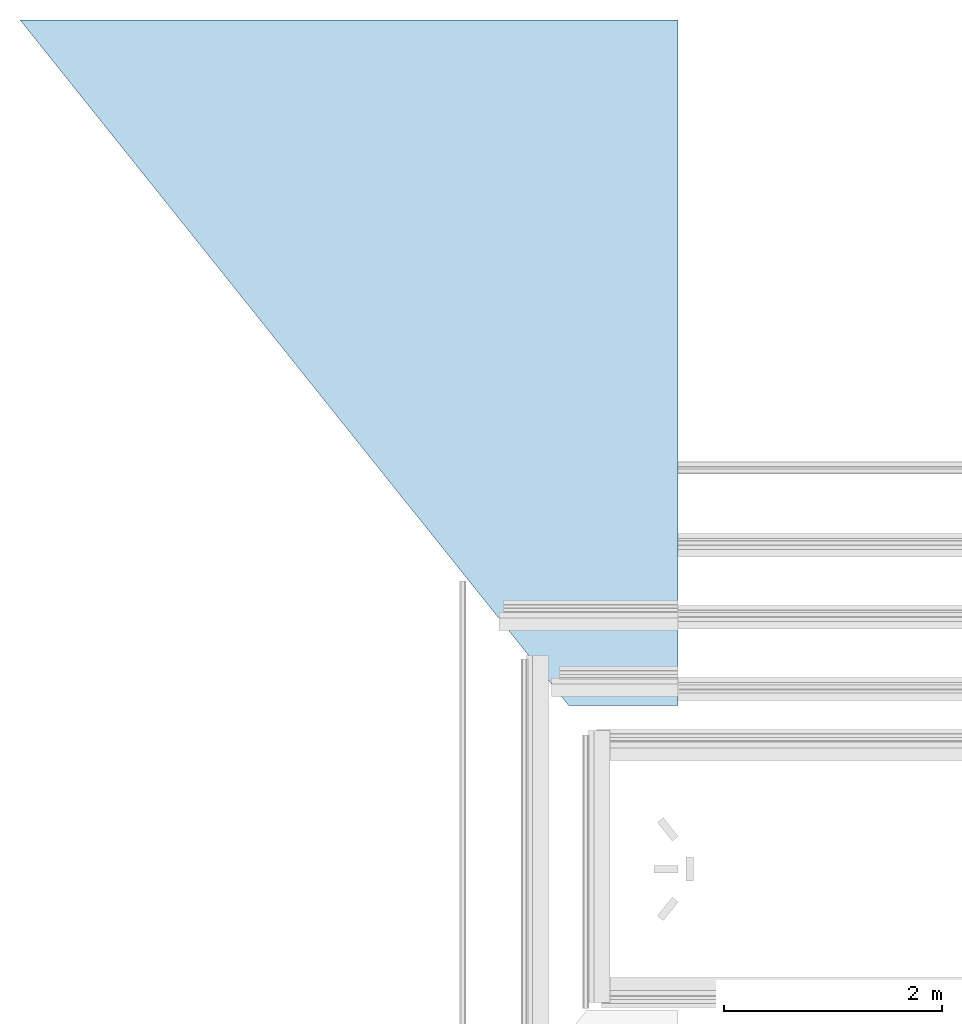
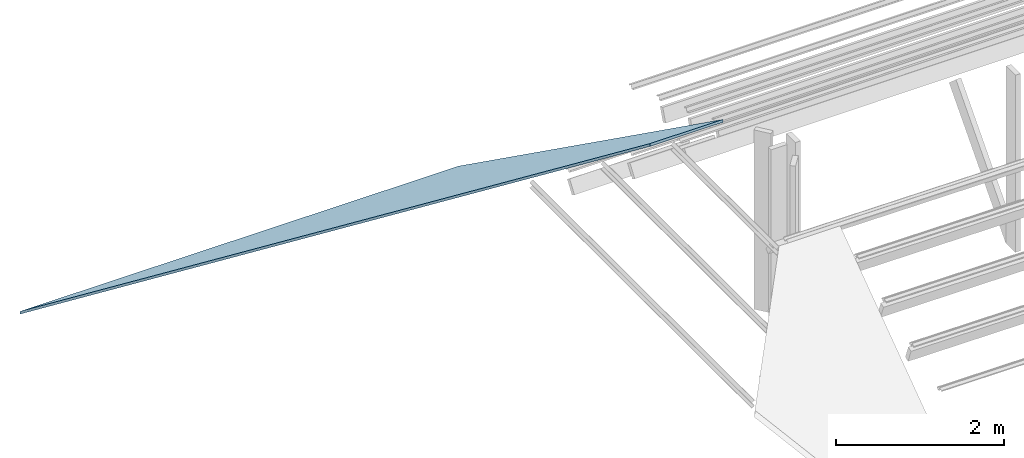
# One storey, part 5 of 6: 1 slab, 1 element without a shape of its own.
"""IFC2X3 building model written with IfcOpenShell, lengths in centimetres."""

from ifc_helpers import new_model, entity, si_unit, converted_unit, direction, frame, origin, place, context, subcontext, project, spatial, polyline, outline, extrude, material, layer, layer_set, type_object, element, aggregate, save


model = new_model("IFC2X3")

# Units and contexts
model_context = context("Model", 3, precision=0.001, world=frame((0.0, 0.0, 13090.0)), true_north=direction((6.123233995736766e-17, 1.0)))
body_context = subcontext(model_context, "Body", "Model", "MODEL_VIEW")
ifc_project = project(units=[si_unit("LENGTHUNIT", "METRE", prefix="CENTI"), si_unit("AREAUNIT", "SQUARE_METRE"), si_unit("VOLUMEUNIT", "CUBIC_METRE"), converted_unit("PLANEANGLEUNIT", "DEGREE", entity("IfcPlaneAngleMeasure", 0.017453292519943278), si_unit("PLANEANGLEUNIT", "RADIAN"), dimensions=[0, 0, 0, 0, 0, 0, 0])], contexts=[model_context])

# Site, building, storey
site_placement = place(None, origin())
site = spatial("IfcSite", under=ifc_project, at=site_placement, Name="Default", CompositionType="ELEMENT")
building_placement = place(site_placement, origin())
building = spatial("IfcBuilding", under=site, at=building_placement, Name="e 39 logements et 22 maisons relais", CompositionType="ELEMENT")
storey_placement = place(building_placement, frame((0.0, 0.0, 810.0)))
storey = spatial("IfcBuildingStorey", under=building, at=storey_placement, Name="R+3", CompositionType="ELEMENT", Elevation=810.0000000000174)

# Roof, slab
ifc_material = material(Name="tole")
ifc_layer = layer(ifc_material, 4.0)
ifc_layer_set = layer_set([ifc_layer], Name="Toit de base:Tôle 1000P")
roof_placement = place(storey_placement, frame((-1527.9895389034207, 127.30311492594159, -473.0)))
roof = element("IfcRoof", 1, at=roof_placement, inside=storey, material=ifc_layer_set, Name="Toit de base:Tôle 1000P", ObjectType="Toit de base:Tôle 1000P", ShapeType="NOTDEFINED")
slab_type = type_object("IfcSlabType", Name="Toit de base:Tôle 1000P", PredefinedType="ROOF")
slab_placement = place(roof_placement, origin())
slab = element("IfcSlab", 2, at=slab_placement, type_object=slab_type, material=ifc_layer_set, Name="Toit de base:Tôle 1000P", ObjectType="Toit de base:Tôle 1000P", PredefinedType="ROOF", context=body_context, shape_type="SweptSolid", body=[
    extrude(outline(polyline([(302.4800321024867, 387.1950316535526), (-302.4800321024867, 387.19503165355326), (201.8899583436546, -387.19503165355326), (302.4800321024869, -387.19503165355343), (302.4800321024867, 387.1950316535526)])), frame((302.4800321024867, 315.1110796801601, 225.0), z_axis=(0.0, 0.5811024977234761, 0.8138303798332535), x_axis=(1.0, 0.0, 0.0)), (0.0, -0.5811024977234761, 0.8138303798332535), 3.999999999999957),
])
aggregate(roof, [slab])

save(model, "model.ifc")
